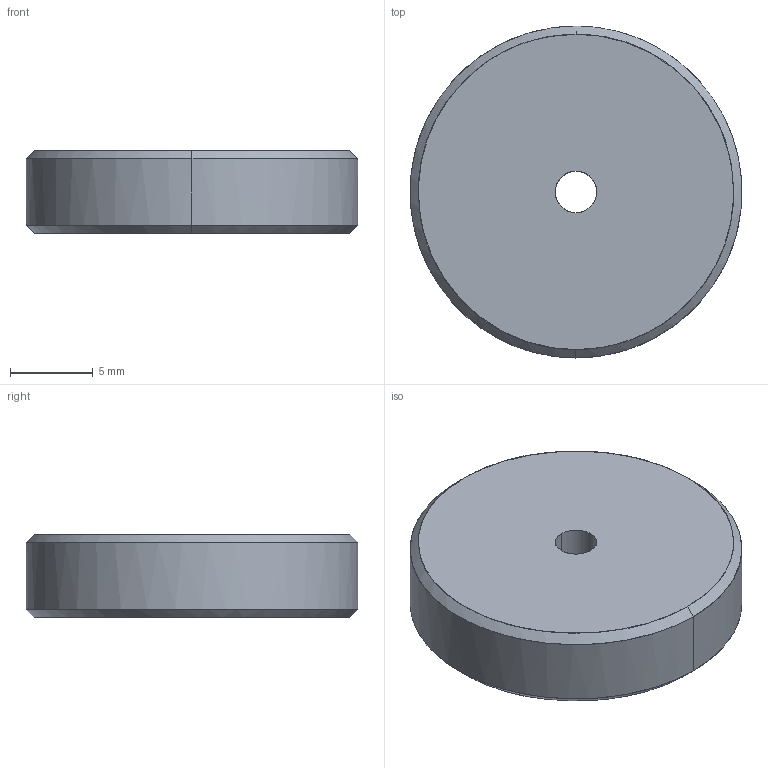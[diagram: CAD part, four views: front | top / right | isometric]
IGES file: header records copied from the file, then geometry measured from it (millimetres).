
Global section: file name: E:\UnigraphicsGraphicData\MISUMI_PRESS-PARTS\IGES\3d_fwss-d20-v2.5-t5.0_00537_r00.igs; native system: NX V5.0; preprocessor: UGS NX IGES V5.0; author: MISUMI; date: 20110105.160700; units: millimetre
Bounding box: 19.96 x 20 x 5 mm (x, y, z)
Surface area: 936.3 mm2 (no closed solid volume)
Topology: 0 solids, 0 shells, 10 faces, 64 edges, 64 vertices
Faces by surface type: bspline 10
